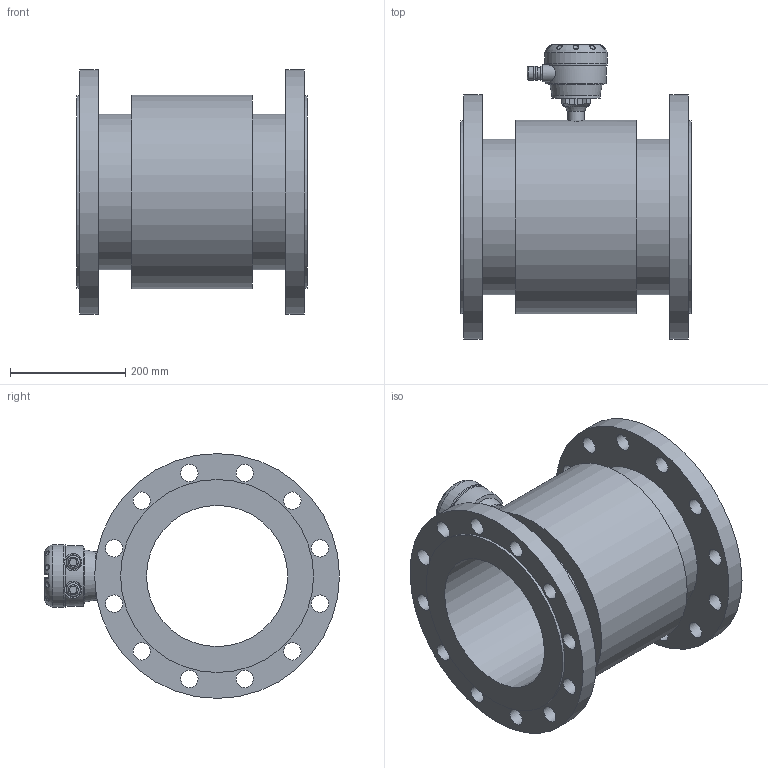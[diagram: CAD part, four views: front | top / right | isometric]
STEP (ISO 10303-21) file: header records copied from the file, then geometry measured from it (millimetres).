
FILE_DESCRIPTION (( 'STEP AP203' ), '1' );
FILE_NAME ('KROHNE_OPTIFLUX_2-4000W_DIN2634_DN250_PN25.STEP', '2011-04-26T11:25:09', ( '' ), ( '' ), 'SwSTEP 2.0', 'SolidWorks 2010', '' );
FILE_SCHEMA (( 'CONFIG_CONTROL_DESIGN' ));
Length unit declared in the file: millimetre
Products named in the file (1): KROHNE_OPTIFLUX_2-4000W_DIN2634_DN250_PN25
Bounding box: 400 x 511.99 x 425 mm (x, y, z)
Volume: 16624658.7 mm3; surface area: 1287012.7 mm2
Topology: 14 solids, 14 shells, 351 faces, 869 edges, 568 vertices
Faces by surface type: plane 158, cylinder 101, bspline 53, torus 18, sphere 13, cone 8
Full cylindrical faces by diameter (mm): 4 x4, 6.6 x8, 13 x2, 20 x2, 23.5 x4, 29 x1, 30 x26, 84 x2, 109 x1, 245 x1, 270 x2, 335 x2, 336 x1, 425 x2
Entity records: 14264 total; most frequent: CARTESIAN_POINT 6539, ORIENTED_EDGE 1494, DIRECTION 1461, EDGE_CURVE 747, AXIS2_PLACEMENT_3D 549, EDGE_LOOP 534, VERTEX_POINT 531, FACE_OUTER_BOUND 426
